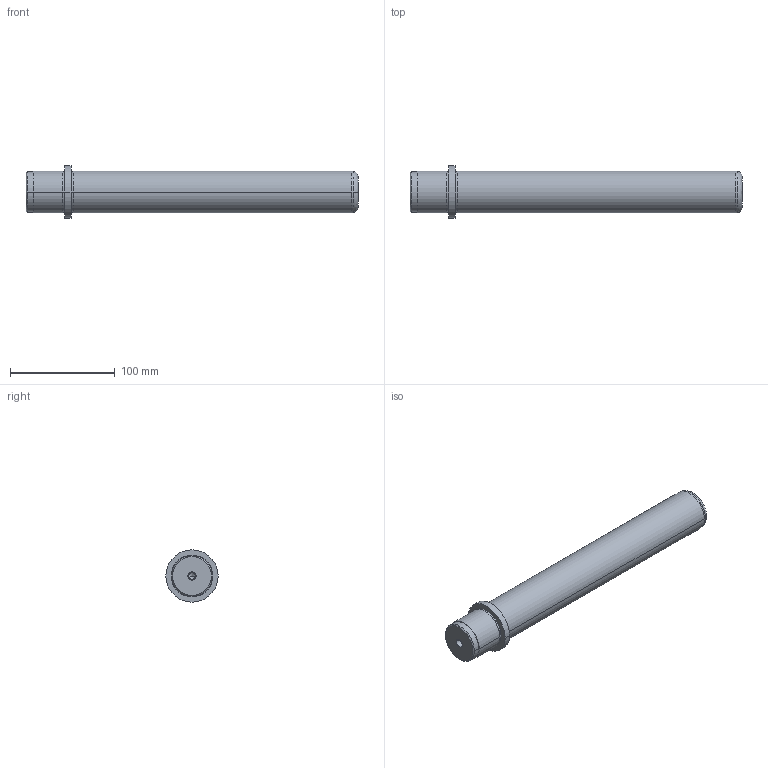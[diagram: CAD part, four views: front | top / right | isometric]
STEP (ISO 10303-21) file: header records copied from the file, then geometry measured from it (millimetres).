
FILE_DESCRIPTION( ( 'STEP AP203' ), '1' );
FILE_NAME( 'D:/Delta 3 D/D00/D00 - 40x280x37.step', '2003-01-02T07:14:38', ( ' ' ), ( ' ' ), 'XStep 1.0', ' ', ' ' );
FILE_SCHEMA( ( 'CONFIG_CONTROL_DESIGN' ) );
Length unit declared in the file: metre
Products named in the file (1): 1
Bounding box: 317 x 50 x 50 mm (x, y, z)
Volume: 399054 mm3; surface area: 44962.5 mm2
Topology: 1 solids, 1 shells, 39 faces, 78 edges, 48 vertices
Faces by surface type: revolution 28, bspline 11
Entity records: 1137 total; most frequent: CARTESIAN_POINT 277, DIRECTION 154, ORIENTED_EDGE 152, EDGE_CURVE 76, AXIS2_PLACEMENT_3D 49, EDGE_LOOP 48, VERTEX_POINT 48, CIRCLE 48
